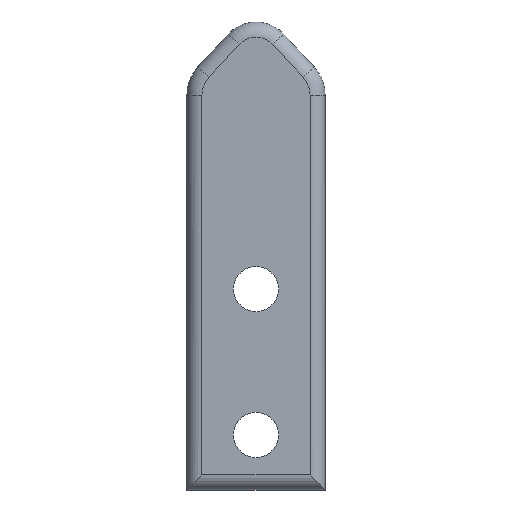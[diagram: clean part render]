
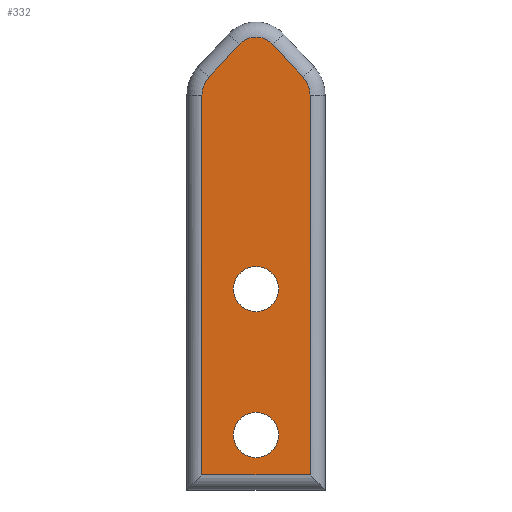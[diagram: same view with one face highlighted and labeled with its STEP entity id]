
A CAD part, front view. The second image highlights one B-rep face of the part: STEP entity #332.
In plain terms, the highlighted planar face has unit normal (0, -1, 0).
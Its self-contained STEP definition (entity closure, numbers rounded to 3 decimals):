
#15=FACE_BOUND('',#81,.T.);
#16=FACE_BOUND('',#82,.T.);
#22=PLANE('',#381);
#31=CIRCLE('',#361,1.75);
#35=CIRCLE('',#367,1.5);
#39=CIRCLE('',#373,1.75);
#42=CIRCLE('',#382,1.5);
#43=CIRCLE('',#383,1.5);
#60=FACE_OUTER_BOUND('',#80,.T.);
#80=EDGE_LOOP('',(#266,#267,#268,#269,#270,#271,#272,#273));
#81=EDGE_LOOP('',(#274));
#82=EDGE_LOOP('',(#275));
#94=LINE('',#508,#119);
#97=LINE('',#519,#122);
#98=LINE('',#530,#123);
#100=LINE('',#542,#125);
#102=LINE('',#551,#127);
#119=VECTOR('',#399,10.);
#122=VECTOR('',#410,10.);
#123=VECTOR('',#423,10.);
#125=VECTOR('',#437,10.);
#127=VECTOR('',#449,10.);
#144=VERTEX_POINT('',#506);
#145=VERTEX_POINT('',#507);
#149=VERTEX_POINT('',#517);
#151=VERTEX_POINT('',#522);
#153=VERTEX_POINT('',#528);
#155=VERTEX_POINT('',#534);
#157=VERTEX_POINT('',#540);
#159=VERTEX_POINT('',#546);
#165=VERTEX_POINT('',#572);
#166=VERTEX_POINT('',#574);
#172=EDGE_CURVE('',#144,#145,#94,.T.);
#178=EDGE_CURVE('',#149,#144,#97,.T.);
#180=EDGE_CURVE('',#151,#149,#31,.T.);
#183=EDGE_CURVE('',#153,#151,#98,.T.);
#186=EDGE_CURVE('',#155,#153,#35,.T.);
#189=EDGE_CURVE('',#157,#155,#100,.T.);
#192=EDGE_CURVE('',#159,#157,#39,.T.);
#194=EDGE_CURVE('',#145,#159,#102,.T.);
#205=EDGE_CURVE('',#165,#165,#42,.T.);
#206=EDGE_CURVE('',#166,#166,#43,.T.);
#266=ORIENTED_EDGE('',*,*,#172,.F.);
#267=ORIENTED_EDGE('',*,*,#178,.F.);
#268=ORIENTED_EDGE('',*,*,#180,.F.);
#269=ORIENTED_EDGE('',*,*,#183,.F.);
#270=ORIENTED_EDGE('',*,*,#186,.F.);
#271=ORIENTED_EDGE('',*,*,#189,.F.);
#272=ORIENTED_EDGE('',*,*,#192,.F.);
#273=ORIENTED_EDGE('',*,*,#194,.F.);
#274=ORIENTED_EDGE('',*,*,#205,.T.);
#275=ORIENTED_EDGE('',*,*,#206,.T.);
#332=ADVANCED_FACE('',(#60,#15,#16),#22,.T.);
#361=AXIS2_PLACEMENT_3D('',#524,#415,#416);
#367=AXIS2_PLACEMENT_3D('',#536,#429,#430);
#373=AXIS2_PLACEMENT_3D('',#548,#443,#444);
#381=AXIS2_PLACEMENT_3D('',#571,#469,#470);
#382=AXIS2_PLACEMENT_3D('',#573,#471,#472);
#383=AXIS2_PLACEMENT_3D('',#575,#473,#474);
#399=DIRECTION('',(-1.,0.,0.));
#410=DIRECTION('',(0.,0.,-1.));
#415=DIRECTION('center_axis',(0.,1.,0.));
#416=DIRECTION('ref_axis',(0.931,0.,0.365));
#423=DIRECTION('',(0.679,0.,-0.734));
#429=DIRECTION('center_axis',(0.,1.,0.));
#430=DIRECTION('ref_axis',(0.,0.,1.));
#437=DIRECTION('',(0.679,0.,0.734));
#443=DIRECTION('center_axis',(0.,1.,0.));
#444=DIRECTION('ref_axis',(-0.931,0.,0.365));
#449=DIRECTION('',(0.,0.,1.));
#469=DIRECTION('center_axis',(0.,-1.,0.));
#470=DIRECTION('ref_axis',(1.,0.,0.));
#471=DIRECTION('center_axis',(0.,1.,0.));
#472=DIRECTION('ref_axis',(1.,0.,0.));
#473=DIRECTION('center_axis',(0.,1.,0.));
#474=DIRECTION('ref_axis',(1.,0.,0.));
#506=CARTESIAN_POINT('',(-42.112,-86.369,144.118));
#507=CARTESIAN_POINT('',(-49.288,-86.369,144.118));
#508=CARTESIAN_POINT('',(-43.406,-86.369,144.118));
#517=CARTESIAN_POINT('',(-42.112,-86.369,169.329));
#519=CARTESIAN_POINT('',(-42.112,-86.369,163.99));
#522=CARTESIAN_POINT('',(-42.578,-86.369,170.519));
#524=CARTESIAN_POINT('Origin',(-43.862,-86.369,169.329));
#528=CARTESIAN_POINT('',(-44.599,-86.369,172.701));
#530=CARTESIAN_POINT('',(-41.351,-86.369,169.194));
#534=CARTESIAN_POINT('',(-46.801,-86.369,172.701));
#536=CARTESIAN_POINT('Origin',(-45.7,-86.369,171.682));
#540=CARTESIAN_POINT('',(-48.822,-86.369,170.519));
#542=CARTESIAN_POINT('',(-51.06,-86.369,168.102));
#546=CARTESIAN_POINT('',(-49.288,-86.369,169.329));
#548=CARTESIAN_POINT('Origin',(-47.538,-86.369,169.329));
#551=CARTESIAN_POINT('',(-49.288,-86.369,150.884));
#571=CARTESIAN_POINT('Origin',(-45.7,-86.369,158.65));
#572=CARTESIAN_POINT('',(-47.2,-86.369,156.455));
#573=CARTESIAN_POINT('Origin',(-45.7,-86.369,156.455));
#574=CARTESIAN_POINT('',(-47.2,-86.369,146.767));
#575=CARTESIAN_POINT('Origin',(-45.7,-86.369,146.767));
